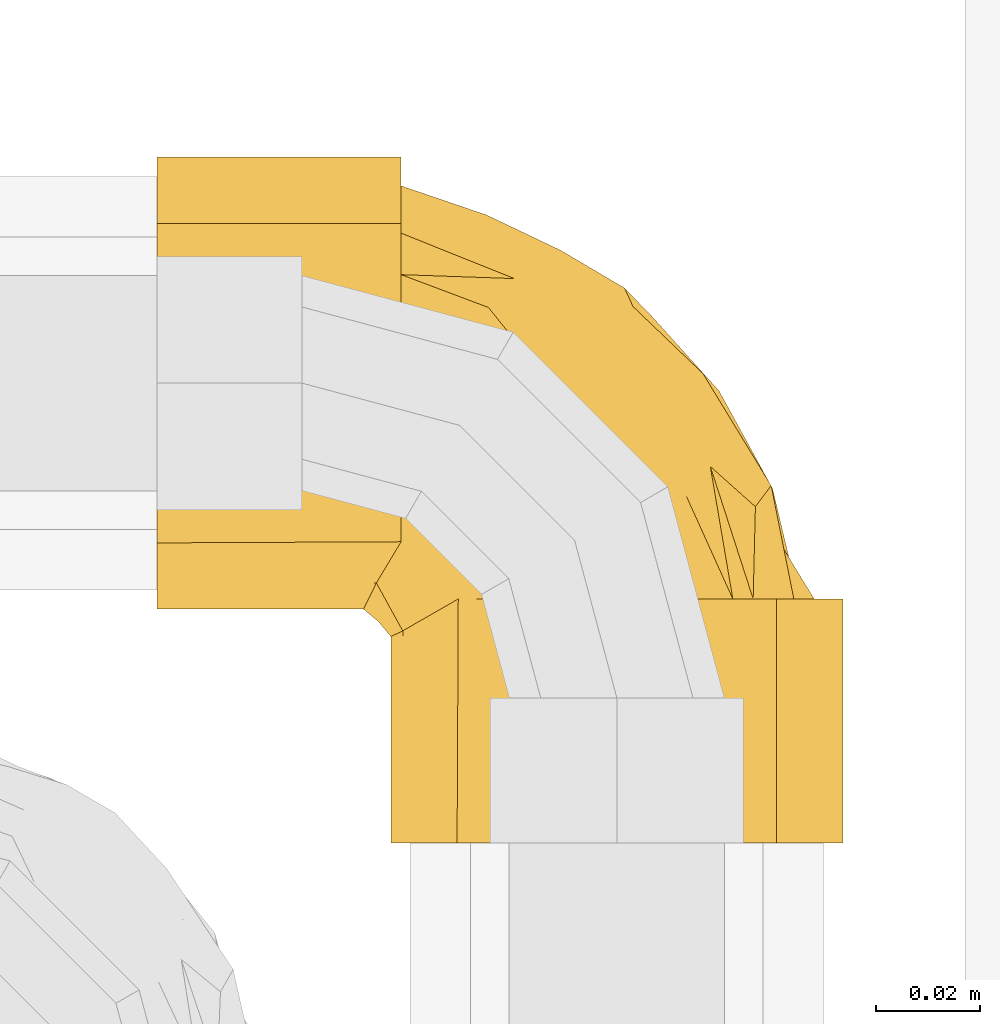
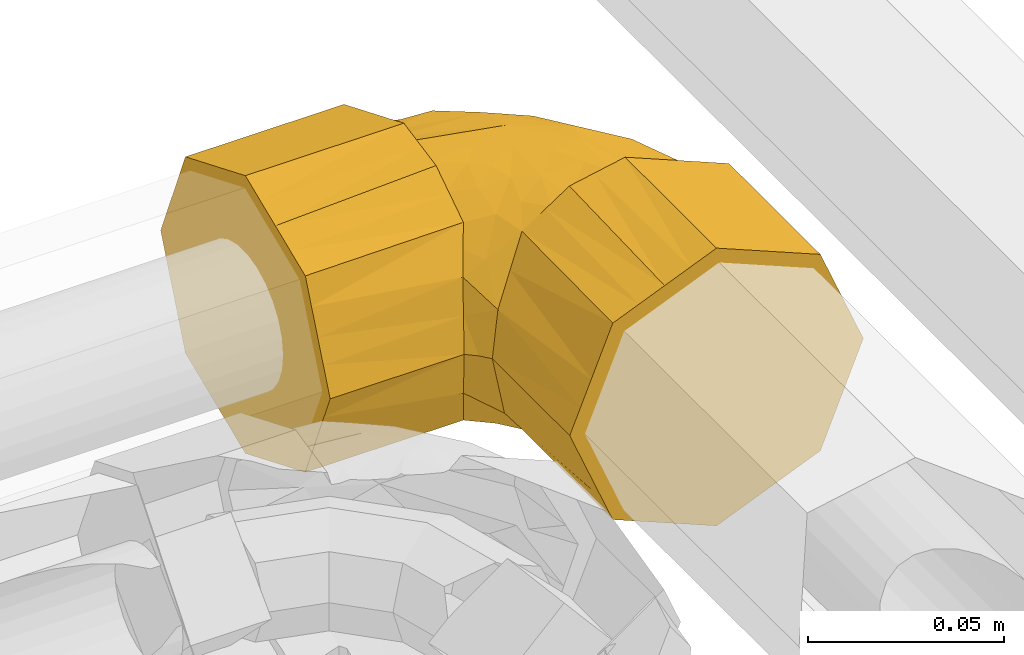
# One storey, part 260 of 652: 1 covering.
"""IFC2X3 building model written with IfcOpenShell, lengths in millimetres."""

from ifc_helpers import new_model, entity, si_unit, converted_unit, direction, frame, origin, place, context, subcontext, project, spatial, faceted_brep, material, type_object, element, save


model = new_model("IFC2X3")

# Units and contexts
model_context = context("Model", 3, precision=0.01, world=frame((0.0, 0.0, 308426.39999999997)), true_north=direction((6.123233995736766e-17, 1.0)))
plan_context = context("Plan", 3, precision=0.01, world=frame((0.0, 0.0, 308426.39999999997)), true_north=direction((6.123233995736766e-17, 1.0)))
body_context = subcontext(model_context, "Body", "Model", "MODEL_VIEW")
ifc_project = project(units=[si_unit("LENGTHUNIT", "METRE", prefix="MILLI"), si_unit("AREAUNIT", "SQUARE_METRE"), si_unit("VOLUMEUNIT", "CUBIC_METRE"), converted_unit("PLANEANGLEUNIT", "DEGREE", entity("IfcPlaneAngleMeasure", 0.017453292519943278), si_unit("PLANEANGLEUNIT", "RADIAN"), dimensions=[0, 0, 0, 0, 0, 0, 0])], contexts=[model_context, plan_context])

# Site, building, storey
site_placement = place(None, origin())
site = spatial("IfcSite", under=ifc_project, at=site_placement, Name="Default", CompositionType="ELEMENT")
building_placement = place(site_placement, origin())
building = spatial("IfcBuilding", under=site, at=building_placement, CompositionType="ELEMENT")
storey_placement = place(building_placement, frame((0.0, 0.0, 1730.6999999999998)))
storey = spatial("IfcBuildingStorey", under=building, at=storey_placement, Name="EG_Produktion_FFB", CompositionType="ELEMENT", Elevation=1730.6999999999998)

# Covering
ifc_material = material(Name="Dämmung - Armaflex-Schlauch")
covering_type = type_object("IfcCoveringType", Name="Rohrdämmung außen:Armaflex-Schlauch", PredefinedType="INSULATION")
covering_placement = place(storey_placement, frame((76591.8822500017, 59861.882249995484, 3944.909272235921)))
element("IfcCovering", 1, at=covering_placement, inside=storey, type_object=covering_type, material=ifc_material, Name="Rohrdämmung außen:Armaflex-Schlauch", ObjectType="Rohrdämmung außen:Armaflex-Schlauch", PredefinedType="INSULATION", context=body_context, shape_type="Brep", body=[
    faceted_brep([(88.1177500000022, 46.752250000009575, -88.223272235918), (79.90226074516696, 46.752250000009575, -86.60452029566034), (71.68677149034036, 46.752250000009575, -84.98576835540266), (64.70149861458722, 46.752250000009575, -80.37355282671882), (57.716225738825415, 46.752250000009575, -75.76133729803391), (66.55955447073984, 46.752250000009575, -79.62862730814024), (75.40288320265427, 46.752250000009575, -83.49591731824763), (85.04966346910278, 46.752250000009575, -84.54677223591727), (92.72698145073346, 46.752250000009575, -81.01733375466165), (100.40429943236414, 46.752250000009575, -77.48789527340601), (108.6345081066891, 46.752250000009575, -73.70428030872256), (116.8647167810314, 46.752250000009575, -69.92066534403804), (120.01964159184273, 46.75225000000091, -61.21969689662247), (122.9766781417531, 46.752250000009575, -53.06448456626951), (125.9337146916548, 46.752250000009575, -44.909272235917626), (122.03577136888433, 46.752250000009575, -37.09633037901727), (118.13782804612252, 46.75225000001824, -29.283388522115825), (114.23988472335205, 46.752250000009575, -21.470446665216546), (110.34194140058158, 46.752250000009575, -13.657504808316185), (101.29094031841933, 46.752250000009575, -10.656617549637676), (93.17030189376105, 46.75225000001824, -7.964194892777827), (85.04966346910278, 46.752250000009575, -5.271772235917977), (81.34938260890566, 46.75225000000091, -6.07026705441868), (77.6491017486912, 46.752250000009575, -6.8687618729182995), (71.91234130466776, 46.75225000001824, -8.106714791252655), (66.17558086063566, 46.752250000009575, -9.344667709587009), (57.716225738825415, 46.752250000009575, -14.057207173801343), (64.70149861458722, 46.752250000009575, -9.44499164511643), (71.68677149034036, 46.752250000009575, -4.832776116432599), (79.06082116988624, 46.752250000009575, -3.379818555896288), (88.1177500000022, 46.752250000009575, -1.5952722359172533), (96.48128679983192, 46.752250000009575, -5.059562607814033), (103.43156156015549, 46.752250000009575, -7.93846067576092), (111.08846734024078, 46.75225000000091, -11.110054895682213), (118.74537312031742, 46.752250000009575, -14.281649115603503), (121.91696734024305, 46.752250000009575, -21.938554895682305), (125.08856156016, 46.752250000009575, -29.595460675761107), (127.96746015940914, 46.752250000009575, -36.5457367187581), (131.43175000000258, 46.752250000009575, -44.909272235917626), (127.9674596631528, 46.752250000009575, -53.27280895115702), (125.08856156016, 46.752250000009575, -60.22308379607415), (121.91696734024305, 46.752250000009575, -67.87998957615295), (118.74537312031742, 46.752250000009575, -75.53689535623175), (111.08846734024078, 46.752250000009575, -78.70848957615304), (103.43156156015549, 46.752250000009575, -81.88008379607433), (96.48128540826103, 46.752250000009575, -84.7589824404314), (131.43175000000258, 0.0, -44.909272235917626), (128.26015578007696, 0.0, -37.252366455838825), (125.08856156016, 0.0, -29.595460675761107), (121.91696734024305, 0.0, -21.938554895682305), (118.74537312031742, 0.0, -14.281649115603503), (111.79509868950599, 0.0, -11.402751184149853), (104.84482425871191, 0.0, -8.523853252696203), (96.48128712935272, 0.0, -5.05956274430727), (88.1177500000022, 0.0, -1.5952722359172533), (80.46084421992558, 0.0, -4.766866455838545), (72.80393843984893, 0.0, -7.93846067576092), (65.14703265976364, 0.0, -11.110054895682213), (57.490126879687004, 0.0, -14.281649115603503), (54.31853265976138, 0.0, -21.938554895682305), (51.14693843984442, 0.0, -29.595460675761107), (47.97534421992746, 0.0, -37.252366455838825), (44.803750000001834, 0.0, -44.909272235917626), (48.26803976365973, 0.0, -53.27280756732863), (51.14693843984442, 0.0, -60.22308379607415), (54.31853265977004, 0.0, -67.87998957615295), (57.490126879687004, 0.0, -75.53689535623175), (65.14703265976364, 0.0, -78.70848957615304), (72.80393843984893, 0.0, -81.88008379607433), (80.46084421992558, 0.0, -85.05167801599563), (88.1177500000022, 0.0, -88.223272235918), (95.77465578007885, 0.0, -85.05167801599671), (103.43156156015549, 0.0, -81.88008379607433), (111.08846734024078, 0.0, -78.70848957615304), (118.74537312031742, 0.0, -75.53689535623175), (121.91696734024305, 0.0, -67.87998957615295), (125.08856156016, 0.0, -60.22308379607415), (128.26015578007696, 0.0, -52.56617801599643), (47.07645465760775, 40.63540735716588, -31.063165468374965), (46.39018774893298, 40.303936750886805, -35.244142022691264), (44.803750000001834, 39.53767878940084, -44.909272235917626), (52.396340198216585, 43.693828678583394, -22.560186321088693), (47.307090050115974, 40.778822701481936, -55.01684165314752), (49.810430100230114, 42.01996661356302, -65.12441107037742), (53.76332791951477, 44.38610830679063, -70.44287418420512), (46.75225000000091, 88.11775000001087, -88.22327223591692), (46.75225000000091, 96.48128620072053, -84.75898211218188), (46.75225000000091, 104.84482240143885, -81.29469198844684), (46.75225000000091, 111.79509776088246, -78.4157936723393), (46.75225000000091, 118.74537312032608, -75.53689535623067), (46.75225000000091, 121.91696734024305, -67.87998957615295), (46.75225000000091, 125.08856156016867, -60.22308379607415), (46.75225000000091, 127.96746022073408, -53.27280760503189), (46.75225000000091, 131.43175000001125, -44.909272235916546), (46.75225000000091, 127.96745974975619, -36.5457357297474), (46.75225000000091, 125.08856156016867, -29.595460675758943), (46.75225000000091, 121.91696734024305, -21.93855489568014), (46.75225000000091, 118.74537312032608, -14.281649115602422), (46.75225000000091, 111.08846734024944, -11.11005489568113), (46.75225000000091, 103.43156156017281, -7.938460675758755), (46.75225000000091, 96.48128586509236, -5.059562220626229), (46.75225000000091, 88.11775000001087, -1.5952722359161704), (46.75225000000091, 79.06082006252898, -3.3798187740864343), (46.75225000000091, 71.68677149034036, -4.832776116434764), (46.75225000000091, 64.70149861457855, -9.44499164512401), (46.75225000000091, 57.71622573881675, -14.057207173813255), (46.75225000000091, 66.55955447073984, -10.189917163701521), (46.75225000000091, 75.40288320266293, -6.322627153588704), (46.75225000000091, 85.0496634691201, -5.271772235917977), (46.75225000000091, 93.00342679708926, -8.928298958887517), (46.75225000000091, 100.95719012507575, -12.584825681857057), (46.75225000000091, 108.91095345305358, -16.24135240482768), (46.75225000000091, 116.86471678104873, -19.897879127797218), (46.75225000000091, 121.39921573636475, -32.40357568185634), (46.75225000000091, 122.976677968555, -36.75405942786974), (46.75225000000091, 125.93371469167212, -44.909272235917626), (46.75225000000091, 122.03577136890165, -52.72221409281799), (46.75225000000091, 118.13782804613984, -60.53515594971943), (46.75225000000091, 114.23988472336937, -68.34809780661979), (46.75225000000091, 110.3419414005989, -76.16103966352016), (46.75225000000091, 97.69580243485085, -80.35390594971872), (46.75225000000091, 85.0496634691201, -84.54677223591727), (46.75225000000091, 81.34938217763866, -83.74827732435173), (46.75225000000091, 77.64910088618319, -82.94978241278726), (46.75224999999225, 71.91234087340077, -81.71182958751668), (46.75225000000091, 66.17558086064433, -80.473876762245), (46.75225000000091, 57.716225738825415, -75.76133729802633), (46.75225000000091, 64.70149861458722, -80.37355282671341), (46.75225000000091, 71.68677149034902, -84.9857683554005), (46.75225000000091, 79.06082129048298, -86.43872593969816), (0.0, 44.803750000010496, -44.909272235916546), (0.0, 48.26803976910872, -36.54573689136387), (0.0, 51.14693843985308, -29.595460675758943), (0.0, 54.318532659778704, -21.93855489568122), (0.0, 57.490126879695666, -14.281649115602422), (0.0, 65.14703265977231, -11.110054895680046), (0.0, 72.80393843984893, -7.938460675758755), (0.0, 80.46084421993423, -4.766866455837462), (0.0, 88.11775000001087, -1.5952722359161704), (0.0, 95.77465578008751, -4.766866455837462), (0.0, 103.43156156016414, -7.9384606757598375), (0.0, 111.08846734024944, -11.110054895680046), (0.0, 118.74537312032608, -14.281649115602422), (0.0, 121.62427109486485, -21.231923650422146), (0.0, 124.50316906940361, -28.182198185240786), (0.0, 127.96745953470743, -36.54573521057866), (0.0, 131.43175000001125, -44.909272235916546), (0.0, 128.2601557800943, -52.56617801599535), (0.0, 125.08856156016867, -60.22308379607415), (0.0, 121.91696734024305, -67.87998957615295), (0.0, 118.74537312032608, -75.53689535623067), (0.0, 111.08846734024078, -78.70848957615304), (0.0, 103.43156156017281, -81.88008379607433), (0.0, 95.77465578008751, -85.05167801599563), (0.0, 88.11775000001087, -88.22327223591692), (0.0, 80.46084421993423, -85.05167801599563), (0.0, 72.80393843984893, -81.88008379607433), (0.0, 65.14703265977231, -78.70848957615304), (0.0, 57.490126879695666, -75.53689535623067), (0.0, 54.31853265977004, -67.87998957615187), (0.0, 51.14693843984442, -60.22308379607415), (0.0, 47.97534421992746, -52.56617801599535), (39.5376787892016, 44.803750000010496, -44.909272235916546), (40.778822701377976, 47.307090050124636, -34.80170281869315), (42.01996661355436, 49.810430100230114, -24.694133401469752), (44.3861083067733, 53.763327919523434, -19.37567028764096), (40.63540735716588, 47.07645465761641, -58.75537900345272), (40.30393673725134, 46.39018772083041, -54.57440227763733), (43.693828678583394, 52.396340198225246, -67.25835815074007), (88.7342954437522, 74.01999786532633, -8.725361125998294), (71.80233442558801, 92.2525032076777, -9.463919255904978), (72.73171129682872, 79.88012577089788, -6.1907132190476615), (101.46918686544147, 66.38050195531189, -12.527264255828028), (106.10858534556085, 81.39388521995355, -25.55863499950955), (104.62433945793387, 89.94328275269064, -35.53659081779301), (94.1957332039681, 96.00570682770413, -26.095882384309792), (86.6221419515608, 91.23223447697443, -15.174603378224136), (114.66824963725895, 64.42758016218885, -24.487026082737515), (85.54000769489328, 64.65714810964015, -6.129493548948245), (77.34212049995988, 113.56925852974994, -36.56453509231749), (63.108838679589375, 120.355997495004, -36.60747455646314), (65.4844163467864, 117.26951448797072, -30.129712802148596), (117.6810750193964, 68.47941466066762, -34.9110802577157), (106.03030708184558, 72.14375295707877, -18.573619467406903), (76.51750923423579, 63.33234390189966, -5.271772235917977), (68.47704441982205, 108.15356104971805, -18.72944517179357), (63.49534266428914, 102.62059617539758, -12.344103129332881), (116.84576107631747, 61.65182754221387, -44.909272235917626), (91.2229792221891, 102.7767205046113, -33.320544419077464), (89.5819002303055, 106.35056016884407, -44.909272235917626), (68.16707511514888, 116.1421374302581, -44.909272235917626), (64.60703401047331, 117.76990778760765, -44.909272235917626), (107.75780746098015, 76.55140508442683, -44.909272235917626), (96.83815184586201, 87.27700719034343, -19.992770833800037), (98.66985384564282, 91.45098262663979, -44.909272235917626), (79.9119665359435, 108.0485537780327, -27.047505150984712), (84.1118101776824, 99.9063367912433, -20.45019912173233), (53.17889625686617, 80.36065574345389, -5.271772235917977), (59.60554251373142, 75.67164801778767, -5.271772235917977), (61.63487961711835, 74.19100368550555, -5.271772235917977), (68.0615258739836, 69.501995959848, -5.271772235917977), (80.78358635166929, 55.04229695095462, -5.271772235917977), (83.20747781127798, 50.33207408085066, -5.271772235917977), (69.04670125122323, 56.26094341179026, -6.602930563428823), (54.55626675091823, 54.55626688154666, -12.248448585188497), (61.11186851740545, 53.210297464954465, -9.802068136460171), (62.409136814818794, 60.665580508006, -7.317776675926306), (42.40915936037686, 42.40915936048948, -44.909272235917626), (48.018516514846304, 48.46855326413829, -20.699108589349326), (55.41828837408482, 70.60278023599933, -6.392719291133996), (54.000773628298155, 62.687122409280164, -8.946882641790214), (60.142658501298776, 66.58610433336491, -6.501503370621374), (70.80808668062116, 55.273856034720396, -83.44870733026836), (81.36529215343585, 53.91189816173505, -84.54677223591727), (48.46855326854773, 48.01851602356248, -69.11943544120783), (54.52623050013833, 54.52623062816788, -77.54084580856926), (58.74435758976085, 62.42306103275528, -82.04384465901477), (62.71838421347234, 54.56229555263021, -81.03832580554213), (67.20716304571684, 62.60173052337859, -83.78700892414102), (63.60418390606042, 67.34789404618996, -83.93264694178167), (49.96557312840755, 82.70515960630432, -84.54677223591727), (53.17889625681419, 80.36065574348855, -84.54677223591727), (59.60554251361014, 75.67164801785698, -84.54677223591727), (68.06152587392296, 69.501995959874, -84.54677223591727), (56.15572771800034, 70.02439853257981, -83.40694394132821), (76.51750923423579, 63.332343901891, -84.54677223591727), (61.63487961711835, 74.19100368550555, -84.54677223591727), (110.48953732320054, 61.51531506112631, -71.93495508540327), (102.01509896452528, 64.015852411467, -77.69345816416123), (101.62783839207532, 76.32579608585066, -72.91689334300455), (65.1991085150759, 89.04415059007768, -82.85383626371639), (107.6992385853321, 86.64351262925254, -52.36213425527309), (95.0571033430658, 91.47388821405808, -67.85753446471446), (112.39514387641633, 69.77767080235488, -65.05516443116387), (92.18182718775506, 66.67052170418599, -81.63721611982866), (87.2149459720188, 61.92968916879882, -83.68517128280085), (64.70970163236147, 106.72241601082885, -74.0908416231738), (84.69214179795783, 93.3320570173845, -74.40030482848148), (65.71529073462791, 99.1733978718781, -78.82291109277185), (78.62112142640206, 74.75379021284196, -83.53620477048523), (81.21836113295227, 84.37906523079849, -80.46753636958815), (75.81996252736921, 113.46460816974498, -56.499519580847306), (94.93182715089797, 100.8009470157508, -52.633119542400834), (88.21869424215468, 103.97247135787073, -59.31665528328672), (117.95353214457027, 67.93556611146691, -54.80835259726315), (75.0385844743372, 106.99731105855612, -68.41532002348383), (100.58448414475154, 92.12128292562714, -59.54913999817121)], [[[0, 1, 2, 3, 4, 5, 6, 7, 8, 9, 10, 11, 12, 13, 14, 15, 16, 17, 18, 19, 20, 21, 22, 23, 24, 25, 26, 27, 28, 29, 30, 31, 32, 33, 34, 35, 36, 37, 38, 39, 40, 41, 42, 43, 44, 45]], [[46, 47, 48, 49, 50, 51, 52, 53, 54, 55, 56, 57, 58, 59, 60, 61, 62, 63, 64, 65, 66, 67, 68, 69, 70, 71, 72, 73, 74, 75, 76, 77]], [[26, 58, 57]], [[27, 26, 57]], [[61, 78, 79, 80]], [[30, 29, 55]], [[78, 60, 81]], [[29, 56, 55]], [[56, 28, 27]], [[30, 55, 54]], [[56, 27, 57]], [[56, 29, 28]], [[61, 80, 62]], [[58, 81, 60, 59]], [[61, 60, 78]], [[58, 26, 81]], [[31, 30, 54, 53, 52, 51, 50, 34, 33, 32]], [[34, 50, 49, 48, 47, 46, 38, 37, 36, 35]], [[0, 45, 44, 43, 42, 74, 73, 72, 71, 70]], [[76, 75, 74, 42, 41, 40, 39, 38, 46, 77]], [[70, 1, 0]], [[3, 2, 68]], [[82, 64, 63]], [[4, 67, 66]], [[3, 68, 67]], [[65, 83, 84, 4]], [[64, 82, 83]], [[68, 2, 69]], [[1, 70, 69]], [[63, 80, 82]], [[69, 2, 1]], [[67, 4, 3]], [[63, 62, 80]], [[65, 4, 66]], [[65, 64, 83]], [[85, 86, 87, 88, 89, 90, 91, 92, 93, 94, 95, 96, 97, 98, 99, 100, 101, 102, 103, 104, 105, 106, 107, 108, 109, 110, 111, 112, 113, 114, 115, 116, 117, 118, 119, 120, 121, 122, 123, 124, 125, 126, 127, 128, 129]], [[130, 131, 132, 133, 134, 135, 136, 137, 138, 139, 140, 141, 142, 143, 144, 145, 146, 147, 148, 149, 150, 151, 152, 153, 154, 155, 156, 157, 158, 159, 160, 161]], [[144, 143, 142, 97, 96, 95, 94, 93, 146, 145]], [[97, 142, 141, 140, 139, 138, 101, 100, 99, 98]], [[136, 102, 137]], [[105, 135, 134]], [[131, 130, 162]], [[101, 137, 102]], [[104, 136, 135]], [[104, 103, 136]], [[132, 163, 164]], [[163, 132, 131]], [[133, 164, 165, 105]], [[131, 162, 163]], [[101, 138, 137]], [[135, 105, 104]], [[102, 136, 103]], [[133, 105, 134]], [[133, 132, 164]], [[161, 162, 130]], [[85, 129, 155]], [[161, 166, 167, 162]], [[156, 128, 127]], [[166, 160, 168]], [[129, 156, 155]], [[157, 156, 127]], [[85, 155, 154]], [[158, 168, 160, 159]], [[156, 129, 128]], [[161, 160, 166]], [[158, 126, 168]], [[126, 157, 127]], [[126, 158, 157]], [[150, 89, 88, 87, 86, 85, 154, 153, 152, 151]], [[89, 150, 149, 148, 147, 146, 93, 92, 91, 90]], [[169, 170, 171]], [[19, 172, 169]], [[173, 174, 175]], [[176, 170, 169]], [[17, 16, 177]], [[21, 20, 178]], [[179, 180, 181]], [[182, 177, 16]], [[178, 20, 169]], [[19, 18, 172]], [[18, 17, 183]], [[20, 19, 169]], [[184, 178, 171]], [[185, 186, 176]], [[176, 169, 172]], [[176, 172, 183]], [[15, 187, 182]], [[183, 17, 177]], [[186, 111, 110]], [[175, 174, 188]], [[179, 189, 190, 191]], [[182, 173, 177]], [[183, 177, 173]], [[182, 16, 15]], [[173, 182, 174]], [[182, 192, 174]], [[173, 175, 193]], [[183, 172, 18]], [[188, 194, 189]], [[189, 179, 188]], [[185, 195, 181]], [[109, 170, 110]], [[185, 112, 111]], [[170, 186, 110]], [[196, 185, 176]], [[170, 109, 171]], [[171, 108, 197, 198, 199, 200, 184]], [[176, 186, 170]], [[185, 111, 186]], [[179, 181, 195]], [[108, 171, 109]], [[185, 181, 112]], [[181, 180, 113]], [[188, 179, 195]], [[188, 195, 175]], [[174, 194, 188]], [[196, 195, 185]], [[196, 176, 193]], [[115, 114, 113, 180]], [[112, 181, 113]], [[179, 191, 180]], [[115, 180, 191]], [[171, 178, 169]], [[174, 192, 194]], [[178, 184, 201, 202, 21]], [[187, 15, 14]], [[187, 192, 182]], [[193, 176, 183]], [[195, 196, 175]], [[173, 193, 183]], [[175, 196, 193]], [[203, 25, 24]], [[204, 26, 205]], [[206, 205, 203]], [[207, 80, 79]], [[203, 200, 206]], [[208, 165, 164]], [[78, 164, 163]], [[209, 107, 106]], [[204, 205, 206]], [[204, 210, 105]], [[107, 198, 197, 108]], [[210, 204, 206]], [[210, 209, 106]], [[79, 163, 207]], [[163, 79, 78]], [[207, 163, 162]], [[209, 210, 211]], [[198, 209, 211]], [[204, 165, 208]], [[78, 81, 26, 208]], [[105, 210, 106]], [[210, 206, 211]], [[208, 26, 204]], [[107, 209, 198]], [[204, 105, 165]], [[78, 208, 164]], [[26, 25, 205]], [[203, 205, 25]], [[202, 201, 24, 23, 22, 21]], [[200, 203, 184]], [[201, 203, 24]], [[203, 201, 184]], [[206, 200, 211]], [[211, 200, 199, 198]], [[207, 82, 80]], [[212, 213, 6]], [[84, 214, 215]], [[125, 216, 126]], [[7, 6, 213]], [[4, 217, 5]], [[218, 217, 216]], [[216, 217, 215]], [[167, 166, 82]], [[216, 215, 126]], [[166, 83, 82]], [[219, 218, 216]], [[215, 217, 4]], [[84, 83, 214]], [[122, 121, 220, 221, 222, 124, 123]], [[207, 162, 167]], [[218, 219, 223]], [[125, 224, 216]], [[6, 5, 212]], [[167, 82, 207]], [[166, 168, 126, 214]], [[218, 212, 217]], [[215, 4, 84]], [[214, 126, 215]], [[166, 214, 83]], [[223, 225, 218]], [[212, 218, 225]], [[212, 225, 213]], [[217, 212, 5]], [[216, 224, 219]], [[222, 224, 124]], [[219, 222, 226, 223]], [[224, 125, 124]], [[222, 219, 224]], [[227, 228, 229]], [[230, 121, 120]], [[192, 231, 194]], [[232, 233, 229]], [[234, 8, 235]], [[236, 237, 238]], [[9, 228, 10]], [[234, 235, 239]], [[240, 234, 239]], [[119, 236, 238]], [[241, 242, 243]], [[235, 7, 213, 225]], [[227, 11, 10]], [[9, 8, 234]], [[12, 233, 244]], [[227, 233, 11]], [[230, 226, 222, 221, 220, 121]], [[238, 237, 240]], [[241, 117, 116]], [[239, 230, 240]], [[239, 226, 230]], [[240, 230, 238]], [[238, 230, 120]], [[120, 119, 238]], [[118, 245, 236]], [[241, 245, 117]], [[237, 232, 229]], [[245, 243, 232]], [[229, 240, 237]], [[187, 13, 244]], [[233, 12, 11]], [[194, 231, 242]], [[246, 244, 233]], [[244, 192, 187]], [[239, 225, 223, 226]], [[228, 240, 229]], [[9, 234, 228]], [[240, 228, 234]], [[246, 242, 231]], [[194, 242, 189]], [[245, 232, 237]], [[233, 232, 246]], [[228, 227, 10]], [[233, 227, 229]], [[116, 190, 241]], [[190, 189, 241]], [[116, 115, 191, 190]], [[192, 244, 231]], [[244, 246, 231]], [[243, 242, 246]], [[241, 189, 242]], [[232, 243, 246]], [[245, 241, 243]], [[7, 235, 8]], [[225, 239, 235]], [[118, 117, 245]], [[237, 236, 245]], [[236, 119, 118]], [[13, 187, 14]], [[13, 12, 244]]]),
])

save(model, "model.ifc")
